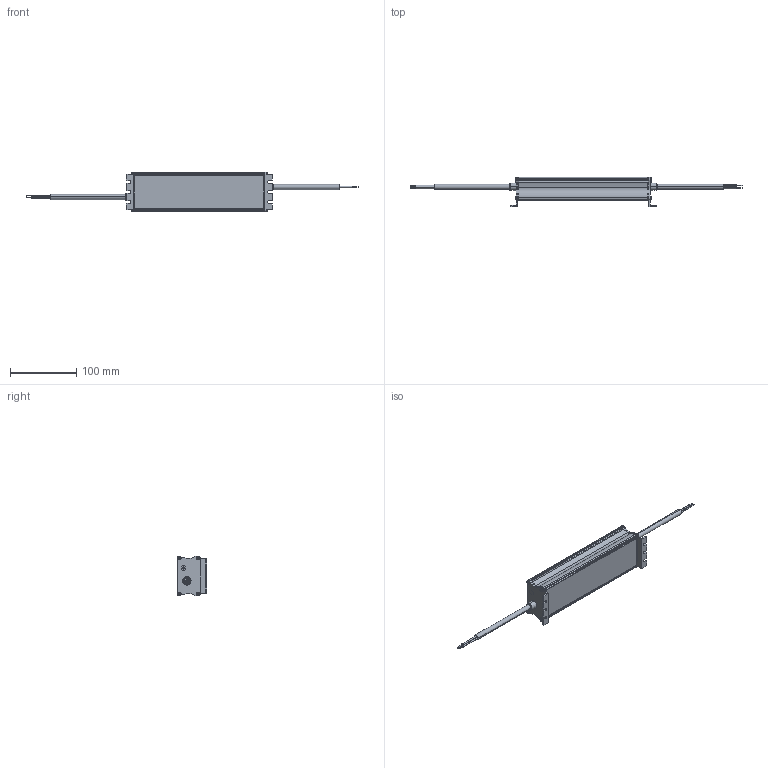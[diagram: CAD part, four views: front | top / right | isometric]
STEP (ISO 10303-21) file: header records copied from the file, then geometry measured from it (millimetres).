
FILE_DESCRIPTION((''),'2;1');
FILE_NAME('TADIA_100W_ASM_ASM','2024-12-25T08:45:22',('HUNGCHI.CHEN'),(''),'CREO PARAMETRIC BY PTC INC, 2023294','CREO PARAMETRIC BY PTC INC, 2023294','');
FILE_SCHEMA(('CONFIG_CONTROL_DESIGN'));
Length unit declared in the file: millimetre
Products named in the file (7): 399212280000; 3247819900; 348-BRACKET; 3647091800; 3646617004; 3100400600; TADIA_100W_ASM_ASM
Assembly tree (15 placements, depth 2):
  TADIA_100W_ASM_ASM
    399212280000
    3247819900  x2
    348-BRACKET  x2
    3647091800
    3646617004
    3100400600  x8
Bounding box: 501.02 x 44.2 x 60 mm (x, y, z)
Volume: 99305.6 mm3; surface area: 107196.4 mm2
Topology: 15 solids, 15 shells, 1596 faces, 4350 edges, 2848 vertices
Faces by surface type: plane 1082, cylinder 370, torus 72, cone 40, sphere 16, bspline 16
Entity records: 26602 total; most frequent: CARTESIAN_POINT 8965, ORIENTED_EDGE 3720, DIRECTION 3470, EDGE_CURVE 1860, VECTOR 1526, LINE 1526, VERTEX_POINT 1231, AXIS2_PLACEMENT_3D 972
